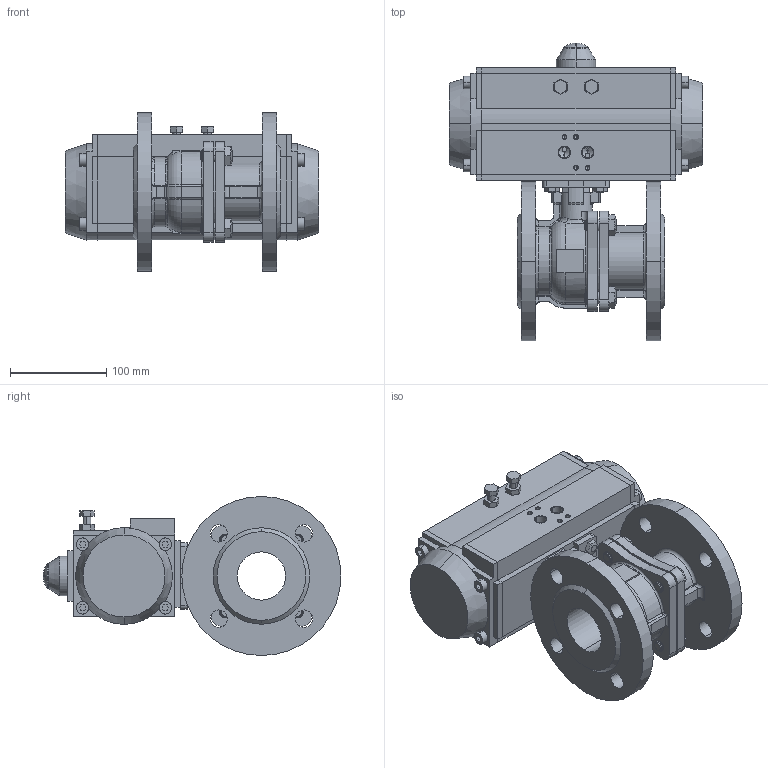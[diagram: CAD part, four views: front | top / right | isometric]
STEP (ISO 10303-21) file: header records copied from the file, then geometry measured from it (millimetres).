
FILE_DESCRIPTION((''),'2;1');
FILE_NAME('BV-22F_RPA_ASM','2024-09-11T',('USER'),(''),'PRO/ENGINEER BY PARAMETRIC TECHNOLOGY CORPORATION, 2011220','PRO/ENGINEER BY PARAMETRIC TECHNOLOGY CORPORATION, 2011220','');
FILE_SCHEMA(('CONFIG_CONTROL_DESIGN'));
Length unit declared in the file: millimetre
Products named in the file (12): KORPUS_KRAN_FL; B-7798-M12-25; SB_KRAN_FL_ASM; KORPUS_PNEVMOPRIVOD; KOLCO_25_GOST13942; KRISKA_VERX; VINT; KRISKA_LEFT; KRISKA_RIGHT; SB_PNEVMOPRIVOD_ASM; B-7798-M8-16; BV-22F_RPA_ASM
Assembly tree (17 placements, depth 3):
  BV-22F_RPA_ASM
    SB_KRAN_FL_ASM
      KORPUS_KRAN_FL
      B-7798-M12-25  x4
    SB_PNEVMOPRIVOD_ASM
      KORPUS_PNEVMOPRIVOD
      KOLCO_25_GOST13942
      KRISKA_VERX
      VINT
      KRISKA_LEFT
      KRISKA_RIGHT
    B-7798-M8-16  x4
Bounding box: 263 x 308.95 x 165 mm (x, y, z)
Volume: 3779860.5 mm3; surface area: 398740.1 mm2
Topology: 15 solids, 49 shells, 851 faces, 2186 edges, 1399 vertices
Faces by surface type: plane 409, cylinder 292, cone 82, torus 31, bspline 30, sphere 6, extrusion 1
Entity records: 24601 total; most frequent: CARTESIAN_POINT 5903, DIRECTION 3982, ORIENTED_EDGE 3676, EDGE_CURVE 1896, AXIS2_PLACEMENT_3D 1441, VERTEX_POINT 1243, VECTOR 1100, LINE 1099
